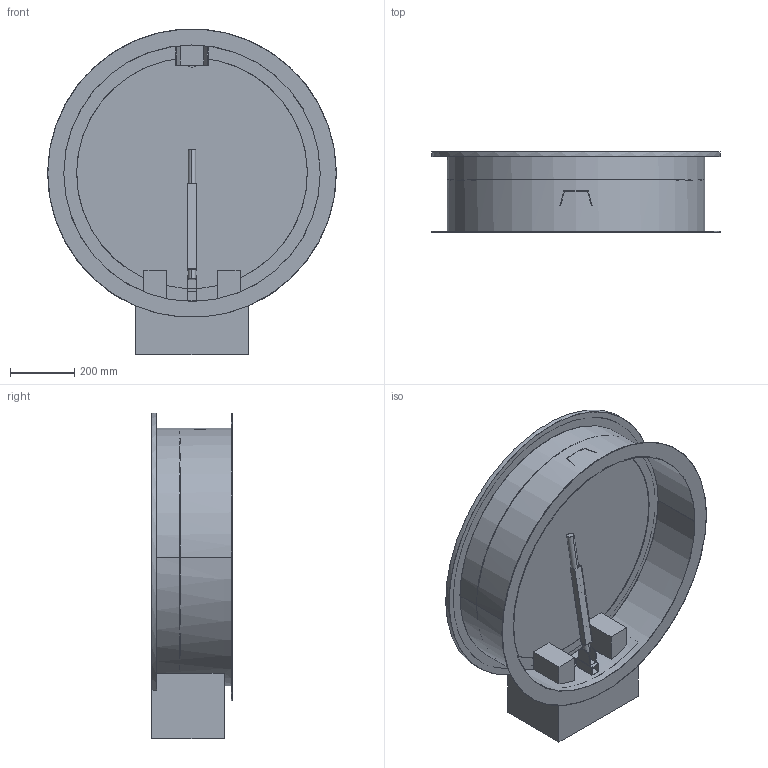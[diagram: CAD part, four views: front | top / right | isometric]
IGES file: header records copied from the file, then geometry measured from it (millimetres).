
Start section:  PTC IGES file: 52432081.igs
Global section: file name: 52432081.igs; native system: Creo Parametric by PTC Inc.; preprocessor: 2022162; author: wep; organization: Unknown; date: 20250724.084917; units: millimetre
Bounding box: 900 x 250.01 x 1016.19 mm (x, y, z)
Surface area: 3512413.1 mm2 (no closed solid volume)
Topology: 0 solids, 0 shells, 682 faces, 3714 edges, 3714 vertices
Faces by surface type: bspline 379, extrusion 275, revolution 28
